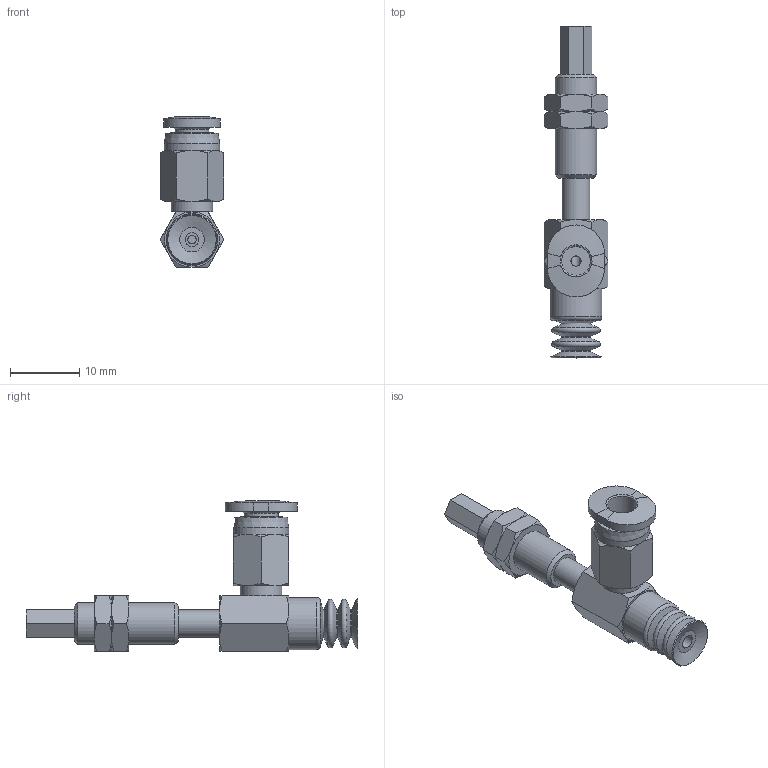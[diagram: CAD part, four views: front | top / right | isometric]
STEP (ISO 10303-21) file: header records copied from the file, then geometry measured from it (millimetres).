
FILE_DESCRIPTION(('STEP AP203'),'1');
FILE_NAME('-O.stp','2025-04-03T06:20:45',(' '),(' '),'Spatial InterOp 3D',' ',' ');
FILE_SCHEMA(('CONFIG_CONTROL_DESIGN'));
Length unit declared in the file: millimetre
Products named in the file (7): BNABPCYS-7-6-※-O; Connector_s-7-6; Nut napc_s-7-6; NAPCTS-7-6-FBODY; NAPCTS-7-6-MBODY; BPCG-7-※; PC-C_04-M3
Assembly tree (7 placements, depth 2):
  BNABPCYS-7-6-※-O
    Connector_s-7-6
    Nut napc_s-7-6  x2
    NAPCTS-7-6-FBODY
    NAPCTS-7-6-MBODY
    BPCG-7-※
    PC-C_04-M3
Bounding box: 9.24 x 48 x 21.77 mm (x, y, z)
Volume: 1562.2 mm3; surface area: 3152.3 mm2
Topology: 6 solids, 8 shells, 190 faces, 390 edges, 230 vertices
Faces by surface type: plane 74, cone 72, cylinder 24, torus 13, bspline 4, revolution 3
Full cylindrical faces by diameter (mm): 1.2 x1, 2 x1, 2.459 x2, 2.5 x2, 3 x2, 4 x4, 4.9 x1, 5.188 x2, 6 x4, 6.1 x1, 7.5 x1, 8 x1
Entity records: 4792 total; most frequent: CARTESIAN_POINT 1271, DIRECTION 665, ORIENTED_EDGE 562, AXIS2_PLACEMENT_3D 294, EDGE_CURVE 282, EDGE_LOOP 248, VERTEX_POINT 198, FACE_OUTER_BOUND 141
